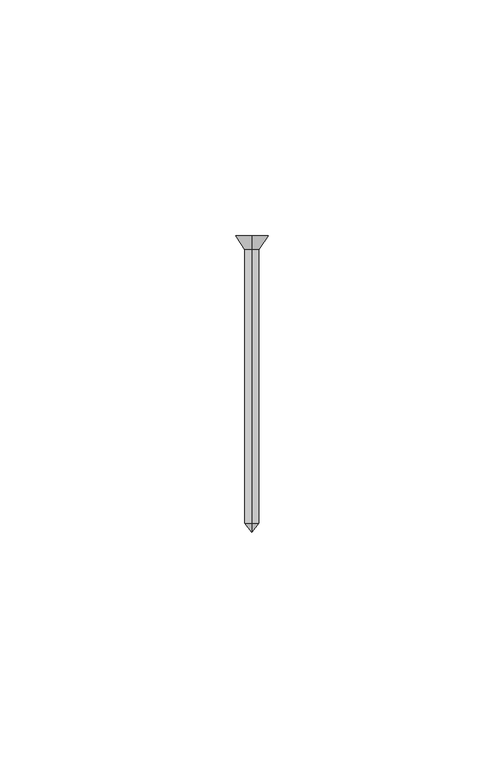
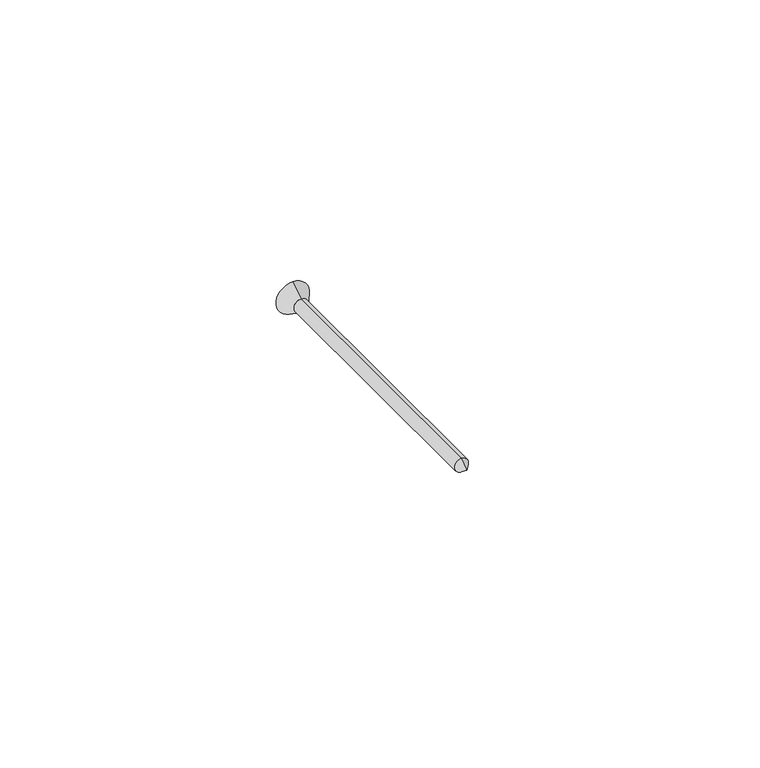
"""IFC4 building model written with IfcOpenShell, lengths in millimetres: furniture geometry, Parafuso de Madeira 60mm x 3mm : Parafuso de Madeira 60mm x 3mm."""

from ifc_helpers import new_model, si_unit, frame, origin, place, context, project, spatial, polyline, circle_curve, source, transform, mapped, element, save
from ifc_brep_helpers import plane_surface, cylinder_surface, revolved_surface, advanced_brep


def furniture_3a2688c3(model_context):
    return source(origin(), model_context, "Body", "AdvancedBrep", [
        advanced_brep(
        [(0.0, -60.9918735, -1.4843245), (0.0, -60.9915131, 1.499063), (0.0, -2.9915135, 1.4920562), (0.0, -2.991874, -1.4913313), (0.0, -62.9806184, 0.0076095), (0.0, 0.0078844, -3.4916938), (0.0, 0.008728, 3.4916938), (0.0, 0.0083062, 0.0)],
        [
            (0, 1, circle_curve(frame((0.0, -60.9916933, 0.0073692), z_axis=(0.0, 0.9999999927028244, -0.00012080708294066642), x_axis=(0.0, 0.00012080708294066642, 0.9999999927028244)), 1.4916938)),
            (1, 2),
            (2, 3, circle_curve(frame((0.0, -2.9916938, 0.0003624), z_axis=(0.0, -0.9999999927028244, 0.00012080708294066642), x_axis=(0.0, 0.00012080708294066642, 0.9999999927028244)), 1.4916938)),
            (3, 0),
            (1, 0, circle_curve(frame((0.0, -60.9916933, 0.0073692), z_axis=(0.0, 0.9999999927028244, -0.00012080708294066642), x_axis=(0.0, 0.00012080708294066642, 0.9999999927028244)), 1.4916938)),
            (3, 2, circle_curve(frame((0.0, -2.9916938, 0.0003624), z_axis=(0.0, -0.9999999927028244, 0.00012080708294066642), x_axis=(0.0, 0.00012080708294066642, 0.9999999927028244)), 1.4916938)),
            (4, 1),
            (0, 4),
            (5, 6, circle_curve(frame((0.0, 0.0083062, 0.0), z_axis=(0.0, 0.9999999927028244, -0.00012080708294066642), x_axis=(0.0, 0.00012080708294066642, 0.9999999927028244)), 3.4916938)),
            (6, 7),
            (7, 5),
            (6, 5, circle_curve(frame((0.0, 0.0083062, 0.0), z_axis=(0.0, 0.9999999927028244, -0.00012080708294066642), x_axis=(0.0, 0.00012080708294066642, 0.9999999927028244)), 3.4916938)),
            (2, 6),
            (5, 3),
        ],
        [
            cylinder_surface(frame((0.0, -62.9916933, 0.0076108), z_axis=(0.0, -0.9999999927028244, 0.00012080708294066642), x_axis=(0.0, 0.00012080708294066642, 0.9999999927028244)), 1.4916938),
            revolved_surface(polyline([(0.0, -60.9915131, 1.499063), (0.0, -62.9806184, 0.0076095)]), (0.0, -62.9916933, 0.0076108), (0.0, -0.9999999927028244, 0.00012080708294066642)),
            plane_surface(frame((0.0, 0.0083062, 0.0), z_axis=(0.0, 0.9999999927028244, -0.00012080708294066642), x_axis=(0.0, 0.00012080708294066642, 0.9999999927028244))),
            revolved_surface(polyline([(0.0, 0.008728, 3.4916938), (0.0, -2.9915135, 1.4920562)]), (0.0, -62.9916933, 0.0076108), (0.0, -0.9999999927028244, 0.00012080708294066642)),
        ],
        [
            (0, [[1, 2, 3, 4]]),
            (0, [[5, -4, 6, -2]]),
            (1, [[7, -1, 8]]),
            (1, [[-8, -5, -7]]),
            (2, [[9, 10, 11]]),
            (2, [[12, -11, -10]]),
            (3, [[-3, 13, -9, 14]]),
            (3, [[-6, -14, -12, -13]]),
        ],
    ),
    ])


if __name__ == "__main__":
    model = new_model("IFC4")
    model_context = context("Model", 3, world=origin())
    ifc_project = project(units=[si_unit("LENGTHUNIT", "METRE", prefix="MILLI")], contexts=[model_context])
    site = spatial("IfcSite", under=ifc_project)
    building = spatial("IfcBuilding", under=site)
    placement = place(None, origin())
    furniture_shape = furniture_3a2688c3(model_context)
    element("IfcFurniture", 1, ObjectType="Parafuso de Madeira 60mm x 3mm : Parafuso de Madeira 60mm x 3mm", at=placement, inside=building, context=model_context, shape_type="MappedRepresentation", body=[
        mapped(furniture_shape, transform((0.0, 0.0, 0.0), x_axis=(1.0, 0.0, 0.0), y_axis=(0.0, 1.0, 0.0), z_axis=(0.0, 0.0, 1.0))),
    ])
    save(model, "model.ifc")
